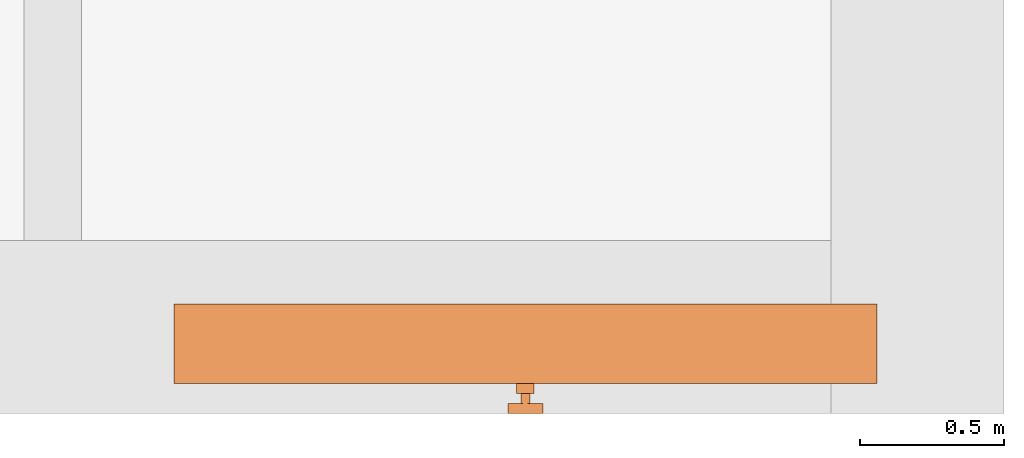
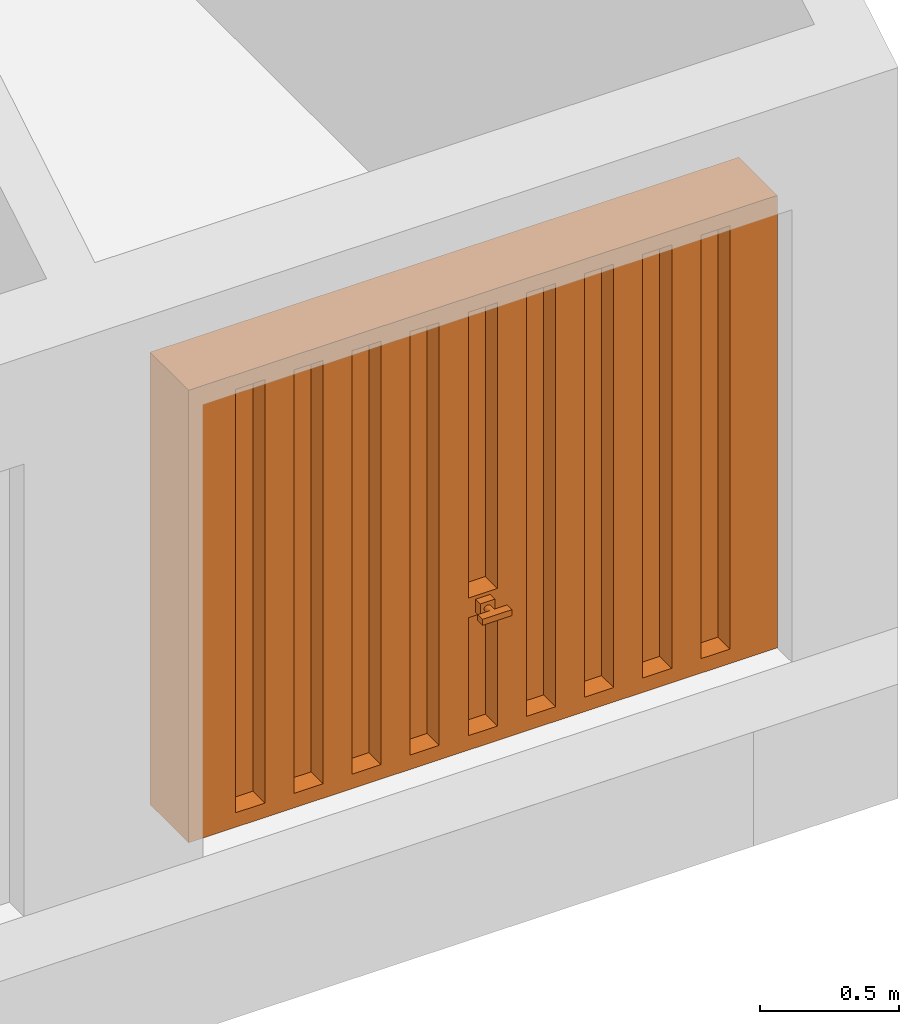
# One storey, part 6 of 6: 1 proxy.
"""IFC2X3 building model written with IfcOpenShell, lengths in millimetres."""

from ifc_helpers import new_model, entity, si_unit, converted_unit, direction, frame, origin, origin_with_axes, place, context, project, spatial, faceted_brep, element, save


model = new_model("IFC2X3")

# Units and contexts
model_context = context("Model", 3, precision=1e-05, world=origin(), true_north=direction((0.0, 1.0, 0.0)))
ifc_project = project(units=[si_unit("LENGTHUNIT", "METRE", prefix="MILLI"), si_unit("AREAUNIT", "SQUARE_METRE"), si_unit("VOLUMEUNIT", "CUBIC_METRE"), converted_unit("PLANEANGLEUNIT", "DEGREE", entity("IfcPlaneAngleMeasure", 0.01745), si_unit("PLANEANGLEUNIT", "RADIAN"), dimensions=[0, 0, 0, 0, 0, 0, 0]), si_unit("SOLIDANGLEUNIT", "STERADIAN"), si_unit("MASSUNIT", "GRAM"), si_unit("TIMEUNIT", "SECOND"), si_unit("THERMODYNAMICTEMPERATUREUNIT", "DEGREE_CELSIUS"), si_unit("LUMINOUSINTENSITYUNIT", "LUMEN")], contexts=[model_context])

# Site, building, storey
site_placement = place(None, origin_with_axes())
site = spatial("IfcSite", under=ifc_project, at=site_placement, Name="Default Site", CompositionType="ELEMENT")
building_placement = place(site_placement, origin_with_axes())
building = spatial("IfcBuilding", under=site, at=building_placement, Name="Default Building", CompositionType="ELEMENT")
storey_placement = place(building_placement, origin_with_axes())
storey = spatial("IfcBuildingStorey", under=building, at=storey_placement, Name="soubassement", CompositionType="ELEMENT", Elevation=0.0)

# Proxy
proxy_placement = place(storey_placement, frame((135.7350482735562, -20939.03786811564, 7.33405780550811e-06), z_axis=(0.0, 0.0, 1.0), x_axis=(1.0, 0.0, 0.0)))
element("IfcBuildingElementProxy", 1, at=proxy_placement, inside=storey, context=model_context, shape_type="Brep", body=[
    faceted_brep([(1158.544757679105, 259.0909082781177, 579.8760057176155), (1158.544757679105, 345.4545443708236, 579.8760057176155), (1278.917301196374, 345.4545443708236, 579.8760057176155), (1278.929027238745, 259.0909082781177, 579.8760057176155), (1158.544757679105, 345.4545443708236, 63.51268776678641), (1158.544757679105, 259.0909082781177, 63.51268776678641), (1278.940753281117, 259.0909082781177, 63.51268776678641), (1158.544757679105, 345.4545443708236, 665.936555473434), (1158.544757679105, 259.0909082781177, 665.936555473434), (1278.891506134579, 259.0909082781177, 665.936555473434), (1278.891506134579, 345.4545443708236, 665.936555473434), (1278.891506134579, 155.4545449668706, 579.8760029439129), (1278.891506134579, 69.09090887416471, 579.8760029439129), (1158.495510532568, 69.09090887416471, 579.8760029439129), (1158.495510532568, 155.4545449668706, 579.8760029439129), (1278.940753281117, 345.4545443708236, 63.51268776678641), (1278.940753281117, 259.0909082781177, 1917.687292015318), (1278.940753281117, 259.0909082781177, 665.936555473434), (1158.544757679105, 259.0909082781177, 1917.687292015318), (195.3767928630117, 345.4545443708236, 63.51268776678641), (195.3767928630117, 345.4545443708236, 1917.687292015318), (195.3767928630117, 259.0909082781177, 1917.687292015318), (195.3767928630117, 259.0909082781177, 63.51268776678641), (315.7727884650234, 345.4545443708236, 63.51268776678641), (315.7727884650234, 259.0909082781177, 63.51268776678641), (315.7727884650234, 345.4545443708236, 1917.687292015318), (315.7727884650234, 259.0909082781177, 579.8760057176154), (315.7727884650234, 259.0909082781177, 1917.687292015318), (436.1687840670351, 345.4545443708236, 63.51268776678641), (436.1687840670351, 345.4545443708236, 1917.687292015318), (436.1687840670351, 259.0909082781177, 1917.687292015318), (436.1687840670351, 259.0909082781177, 579.8760057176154), (436.1687840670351, 259.0909082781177, 63.51268776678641), (556.5647796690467, 345.4545443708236, 63.51268776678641), (556.5647796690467, 259.0909082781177, 63.51268776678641), (556.5647796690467, 345.4545443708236, 1917.687292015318), (556.5647796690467, 259.0909082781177, 579.8760057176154), (556.5647796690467, 259.0909082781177, 1917.687292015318), (676.9607752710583, 345.4545443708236, 63.51268776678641), (676.9607752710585, 345.4545443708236, 1917.687292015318), (676.9607752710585, 259.0909082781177, 1917.687292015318), (676.9607752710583, 259.0909082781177, 579.8760057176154), (676.9607752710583, 259.0909082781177, 63.51268776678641), (797.3567708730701, 345.4545443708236, 63.51268776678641), (797.3567708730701, 259.0909082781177, 63.51268776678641), (797.3567708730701, 345.4545443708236, 1917.687292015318), (797.3567708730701, 259.0909082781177, 579.8760057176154), (797.3567708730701, 259.0909082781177, 1917.687292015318), (917.7527664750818, 345.4545443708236, 63.51268776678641), (917.7527664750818, 345.4545443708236, 1917.687292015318), (917.7527664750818, 259.0909082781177, 1917.687292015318), (917.7527664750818, 259.0909082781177, 579.8760057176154), (917.7527664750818, 259.0909082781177, 63.51268776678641), (1038.148762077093, 345.4545443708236, 63.51268776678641), (1038.148762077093, 259.0909082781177, 63.51268776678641), (1038.148762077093, 345.4545443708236, 1917.687292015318), (1038.148762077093, 259.0909082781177, 579.8760057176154), (1038.148762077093, 259.0909082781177, 1917.687292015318), (1158.544757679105, 345.4545443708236, 1917.687292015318), (1278.940753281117, 345.4545443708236, 1917.687292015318), (1399.336748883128, 345.4545443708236, 63.51268776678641), (1399.336748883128, 345.4545443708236, 1917.687292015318), (1399.336748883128, 259.0909082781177, 1917.687292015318), (1399.336748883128, 259.0909082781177, 665.936555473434), (1399.336748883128, 259.0909082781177, 63.51268776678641), (1519.73274448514, 345.4545443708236, 63.51268776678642), (1519.73274448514, 259.0909082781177, 63.51268776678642), (1519.73274448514, 345.4545443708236, 1917.687292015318), (1519.73274448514, 259.0909082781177, 1917.687292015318), (1640.128740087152, 345.4545443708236, 63.51268776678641), (1640.128740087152, 345.4545443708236, 1917.687292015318), (1640.128740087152, 259.0909082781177, 1917.687292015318), (1640.128740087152, 259.0909082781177, 63.51268776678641), (1760.524735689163, 345.4545443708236, 63.51268776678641), (1760.524735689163, 259.0909082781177, 63.51268776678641), (1760.524735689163, 345.4545443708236, 1917.687292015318), (1760.524735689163, 259.0909082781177, 1917.687292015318), (1880.920731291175, 345.4545443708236, 63.51268776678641), (1880.920731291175, 345.4545443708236, 1917.687292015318), (1880.920731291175, 259.0909082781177, 1917.687292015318), (1880.920731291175, 259.0909082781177, 63.51268776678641), (2001.316726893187, 345.4545443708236, 63.51268776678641), (2001.316726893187, 259.0909082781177, 63.51268776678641), (2001.316726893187, 345.4545443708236, 1917.687292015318), (2001.316726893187, 259.0909082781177, 1917.687292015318), (2121.712722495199, 345.4545443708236, 63.51268776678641), (2121.712722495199, 345.4545443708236, 1917.687292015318), (2121.712722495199, 259.0909082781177, 1917.687292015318), (2121.712722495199, 259.0909082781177, 63.51268776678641), (2242.10871809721, 345.4545443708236, 63.51268776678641), (2242.10871809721, 259.0909082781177, 63.51268776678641), (2242.10871809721, 345.4545443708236, 1917.687292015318), (2242.10871809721, 259.0909082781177, 1917.687292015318), (2363.41911366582, 345.4545443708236, 63.51268776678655), (2363.41911366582, 345.4545443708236, 1917.687292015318), (74.98079726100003, 345.4545443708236, 1917.687292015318), (74.98079726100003, 345.4545443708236, 63.51268776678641), (1278.891506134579, 69.09090887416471, 594.9365996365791), (1278.891506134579, 69.09090887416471, 665.936555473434), (1158.495510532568, 69.09090887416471, 665.936555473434), (1249.173507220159, 69.09090887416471, 650.8759587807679), (1249.173507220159, 69.09090887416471, 594.9365996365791), (1188.213509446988, 69.09090887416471, 594.9365996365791), (1188.213509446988, 69.09090887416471, 650.8759587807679), (1211.186911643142, -34.54545443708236, 624.6100296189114), (1210.922107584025, -34.54545443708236, 622.9062792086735), (1211.186911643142, -34.54545443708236, 621.2025287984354), (1211.963277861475, -34.54545443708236, 619.6148861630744), (1213.198298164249, -34.54545443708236, 618.2515465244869), (1214.807807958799, -34.54545443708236, 617.205419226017), (1216.682121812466, -34.54545443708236, 616.5477961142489), (1218.693508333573, -34.54545443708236, 616.3234931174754), (1220.704894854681, -34.54545443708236, 616.5477961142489), (1222.579208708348, -34.54545443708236, 617.205419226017), (1224.188718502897, -34.54545443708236, 618.2515465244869), (1225.423738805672, -34.54545443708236, 619.6148861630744), (1226.200105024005, -34.54545443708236, 621.2025287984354), (1226.464909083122, -34.54545443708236, 622.9062792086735), (1226.200105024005, -34.54545443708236, 624.6100296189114), (1225.423738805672, -34.54545443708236, 626.1976722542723), (1224.188718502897, -34.54545443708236, 627.56101189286), (1222.579208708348, -34.54545443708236, 628.6071391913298), (1220.704894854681, -34.54545443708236, 629.2647623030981), (1218.693508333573, -34.54545443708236, 629.4890652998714), (1216.682121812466, -34.54545443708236, 629.2647623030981), (1214.807807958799, -34.54545443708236, 628.6071391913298), (1213.198298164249, -34.54545443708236, 627.56101189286), (1211.963277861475, -34.54545443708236, 626.1976722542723), (1214.749106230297, 0.0, 610.4370626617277), (1214.749106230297, 34.54545443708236, 610.4370626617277), (1218.693508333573, 34.54545443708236, 609.9971963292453), (1218.693508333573, 0.0, 609.9971963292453), (1211.073508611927, 0.0, 611.7266854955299), (1211.073508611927, 34.54545443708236, 611.7266854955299), (1207.917201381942, 0.0, 613.7781791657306), (1207.917201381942, 34.54545443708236, 613.7781791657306), (1205.495281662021, 0.0, 616.4517377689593), (1205.495281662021, 34.54545443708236, 616.4517377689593), (1203.972799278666, 0.0, 619.5651627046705), (1203.972799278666, 34.54545443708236, 619.5651627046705), (1203.453508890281, 0.0, 622.9062792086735), (1203.453508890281, 34.54545443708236, 622.9062792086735), (1203.972799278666, 0.0, 626.2473957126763), (1203.972799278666, 34.54545443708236, 626.2473957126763), (1205.495281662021, 0.0, 629.3608206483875), (1205.495281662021, 34.54545443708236, 629.3608206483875), (1207.917201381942, 0.0, 632.0343792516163), (1207.917201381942, 34.54545443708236, 632.0343792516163), (1218.693508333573, 0.0, 635.8153620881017), (1218.693508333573, 34.54545443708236, 635.8153620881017), (1214.749106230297, 34.54545443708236, 635.3754957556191), (1214.749106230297, 0.0, 635.3754957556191), (1211.073508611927, 34.54545443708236, 634.085872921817), (1211.073508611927, 0.0, 634.085872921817), (1207.917201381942, -34.54545443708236, 632.0343792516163), (1211.073508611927, -34.54545443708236, 634.085872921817), (1222.185954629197, 0.0, 635.4258963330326), (1222.637910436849, 0.0, 635.3754957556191), (1226.31350805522, 0.0, 634.0858729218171), (1229.469815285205, 0.0, 632.0343792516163), (1231.891735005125, 0.0, 629.3608206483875), (1233.414217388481, 0.0, 626.2473957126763), (1233.933507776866, 0.0, 622.9062792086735), (1233.414217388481, 0.0, 619.5651627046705), (1231.891735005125, 0.0, 616.4517377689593), (1229.469815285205, 0.0, 613.7781791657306), (1226.31350805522, 0.0, 611.7266854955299), (1222.637910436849, 0.0, 610.4370626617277), (1222.637910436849, 34.54545443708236, 635.3754957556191), (1226.31350805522, 34.54545443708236, 634.0858729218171), (1229.469815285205, 34.54545443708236, 632.0343792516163), (1231.891735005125, 34.54545443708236, 629.3608206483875), (1233.414217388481, 34.54545443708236, 626.2473957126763), (1233.933507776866, 34.54545443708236, 622.9062792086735), (1233.414217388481, 34.54545443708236, 619.5651627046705), (1231.891735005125, 34.54545443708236, 616.4517377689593), (1229.469815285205, 34.54545443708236, 613.7781791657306), (1226.31350805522, 34.54545443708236, 611.7266854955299), (1222.637910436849, 34.54545443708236, 610.4370626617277), (1222.637910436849, -34.54545443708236, 635.3754957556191), (1226.31350805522, -34.54545443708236, 634.0858729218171), (1229.469815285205, -34.54545443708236, 632.0343792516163), (1231.891735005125, -34.54545443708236, 629.3608206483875), (1233.414217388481, -34.54545443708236, 626.2473957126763), (1233.933507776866, -34.54545443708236, 622.9062792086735), (1233.414217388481, -34.54545443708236, 619.5651627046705), (1231.891735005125, -34.54545443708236, 616.4517377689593), (1229.469815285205, -34.54545443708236, 613.7781791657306), (1226.31350805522, -34.54545443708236, 611.7266854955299), (1222.637910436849, -34.54545443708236, 610.4370626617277), (1218.693508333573, -34.54545443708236, 609.9971963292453), (1218.693508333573, -34.54545443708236, 635.8153620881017), (1222.185954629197, -34.54545443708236, 635.4258963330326), (1279.653506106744, -34.54545443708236, 609.9971963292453), (1279.653506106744, -34.54545443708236, 635.8153620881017), (1214.749106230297, -34.54545443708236, 635.3754957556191), (1205.495281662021, -34.54545443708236, 629.3608206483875), (1203.972799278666, -34.54545443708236, 626.2473957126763), (1203.453508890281, -34.54545443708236, 622.9062792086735), (1203.972799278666, -34.54545443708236, 619.5651627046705), (1205.495281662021, -34.54545443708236, 616.4517377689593), (1207.917201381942, -34.54545443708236, 613.7781791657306), (1211.073508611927, -34.54545443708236, 611.7266854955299), (1214.749106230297, -34.54545443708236, 610.4370626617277), (1228.365546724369, 0.0, 635.4677763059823), (1279.653506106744, 0.0, 635.8153620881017), (1157.733510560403, 0.0, 635.8153620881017), (1157.733510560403, -34.54545443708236, 635.8153620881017), (1279.653506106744, 0.0, 609.9971963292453), (1157.733510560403, -34.54545443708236, 609.9971963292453), (1157.733510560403, 0.0, 609.9971963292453), (1188.213509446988, 34.54545443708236, 594.9365996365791), (1188.213509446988, 34.54545443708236, 650.8759587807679), (1249.173507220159, 34.54545443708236, 650.8759587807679), (1249.173507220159, 34.54545443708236, 594.9365996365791), (1158.495510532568, 155.4545449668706, 665.936555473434), (1158.495510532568, 69.09090887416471, 1917.687292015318), (1158.495510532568, 155.4545449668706, 881.0879367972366), (1158.495510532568, 155.4545449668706, 1912.351537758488), (1158.495510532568, 155.4545449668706, 1917.687292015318), (1278.891506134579, 155.4545449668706, 665.936555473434), (1278.891506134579, 69.09090887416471, 1917.687292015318), (1278.891506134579, 155.4545449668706, 1917.687292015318), (1038.099514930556, 155.4545449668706, 881.0879367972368), (1038.099514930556, 155.4545449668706, 665.936555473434), (1056.639961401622, 155.4545449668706, 665.936555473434), (1056.639961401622, 155.4545449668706, 881.0879367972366), (1137.919958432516, 155.4545449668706, 881.0879367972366), (1137.919958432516, 155.4545449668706, 665.936555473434), (1137.919958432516, 155.4545449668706, 579.8760029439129), (1056.639961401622, 155.4545449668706, 579.8760029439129), (1038.099514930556, 155.4545449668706, 579.8760029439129), (1038.099514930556, 155.4545449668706, 1912.351537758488), (1056.639961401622, 155.4545449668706, 1912.351537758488), (1137.919958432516, 155.4545449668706, 1912.351537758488), (2121.663475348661, 69.09090887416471, 1917.687292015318), (2121.663475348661, 69.09090887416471, 63.51268776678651), (2121.663475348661, 155.4545449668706, 63.51268776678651), (2121.663475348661, 155.4545449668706, 1917.687292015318), (2242.059470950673, 69.09090887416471, 1917.687292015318), (2242.059470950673, 155.4545449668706, 1917.687292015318), (2242.059470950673, 69.09090887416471, 63.51268776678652), (2242.059470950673, 155.4545449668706, 63.51268776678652), (1880.871484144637, 69.09090887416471, 1917.687292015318), (1880.871484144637, 69.09090887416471, 63.5126877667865), (1880.871484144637, 155.4545449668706, 63.5126877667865), (1880.871484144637, 155.4545449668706, 1917.687292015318), (2001.267479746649, 69.09090887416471, 1917.687292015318), (2001.267479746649, 155.4545449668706, 1917.687292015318), (2001.267479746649, 69.09090887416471, 63.5126877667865), (2001.267479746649, 155.4545449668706, 63.5126877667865), (1640.079492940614, 69.09090887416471, 1917.687292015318), (1640.079492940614, 69.09090887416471, 63.51268776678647), (1640.079492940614, 155.4545449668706, 63.51268776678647), (1640.079492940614, 155.4545449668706, 1912.351537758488), (1640.079492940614, 155.4545449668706, 1917.687292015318), (1760.475488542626, 69.09090887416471, 1917.687292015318), (1760.475488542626, 155.4545449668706, 1917.687292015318), (1760.475488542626, 69.09090887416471, 63.51268776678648), (1760.475488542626, 155.4545449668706, 63.51268776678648), (1706.879937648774, 155.4545449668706, 63.51268776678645), (1399.287501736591, 69.09090887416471, 1917.687292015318), (1399.287501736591, 69.09090887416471, 63.51268776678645), (1399.287501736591, 155.4545449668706, 63.51268776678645), (1399.287501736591, 155.4545449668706, 1917.687292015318), (1519.683497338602, 69.09090887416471, 1917.687292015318), (1519.683497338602, 155.4545449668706, 1917.687292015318), (1519.683497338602, 69.09090887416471, 63.51268776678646), (1519.683497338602, 155.4545449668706, 1912.351537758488), (1519.683497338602, 155.4545449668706, 63.51268776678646), (1463.039946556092, 155.4545449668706, 63.51268776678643), (1158.495510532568, 155.4545449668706, 63.51268776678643), (1158.495510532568, 69.09090887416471, 63.51268776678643), (1278.891506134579, 69.09090887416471, 63.51268776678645), (1278.891506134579, 155.4545449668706, 63.51268776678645), (1219.19995546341, 155.4545449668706, 63.51268776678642), (1056.639961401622, 155.4545449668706, 0.0), (1038.099514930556, 155.4545449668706, 63.51268776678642), (975.3599643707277, 155.4545449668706, 63.51268776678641), (975.3599643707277, 155.4545449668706, 0.0), (917.7527664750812, 69.09090887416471, 1917.687292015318), (917.7527664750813, 69.09090887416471, 63.51268776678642), (917.7527664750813, 155.4545449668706, 63.51268776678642), (917.7527664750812, 155.4545449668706, 1917.687292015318), (1038.099514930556, 69.09090887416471, 1914.770687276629), (1038.099514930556, 155.4545449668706, 1914.770687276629), (1038.099514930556, 69.09090887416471, 63.51268776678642), (731.5199732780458, 155.4545449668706, 0.0), (731.5199732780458, 155.4545449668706, 63.51268776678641), (676.960775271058, 155.4545449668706, 63.51268776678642), (676.9607752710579, 155.4545449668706, 1912.351537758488), (650.2399762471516, 155.4545449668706, 1912.351537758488), (650.2399762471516, 155.4545449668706, 0.0), (676.9607752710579, 69.09090887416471, 1917.687292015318), (676.960775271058, 69.09090887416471, 63.51268776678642), (676.9607752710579, 155.4545449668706, 1917.687292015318), (797.3567708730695, 69.09090887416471, 1917.687292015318), (797.3567708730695, 155.4545449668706, 1917.687292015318), (797.3567708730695, 69.09090887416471, 63.51268776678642), (797.3567708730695, 155.4545449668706, 63.51268776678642), (568.9599792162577, 155.4545449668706, 1912.351537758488), (556.5647796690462, 155.4545449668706, 1912.351537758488), (556.5647796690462, 155.4545449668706, 63.51268776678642), (487.6799821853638, 155.4545449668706, 63.51268776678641), (487.6799821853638, 155.4545449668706, 0.0), (568.9599792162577, 155.4545449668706, 0.0), (436.1687840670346, 69.09090887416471, 1917.687292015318), (436.1687840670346, 69.09090887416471, 63.51268776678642), (436.1687840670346, 155.4545449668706, 63.51268776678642), (436.1687840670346, 155.4545449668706, 1917.687292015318), (556.5647796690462, 69.09090887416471, 1917.687292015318), (556.5647796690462, 155.4545449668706, 1917.687292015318), (556.5647796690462, 69.09090887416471, 63.51268776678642), (243.8399910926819, 155.4545449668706, 0.0), (243.8399910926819, 155.4545449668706, 63.51268776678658), (195.3767928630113, 155.4545449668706, 63.51268776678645), (195.3767928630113, 155.4545449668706, 1912.351537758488), (162.5599940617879, 155.4545449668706, 1912.351537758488), (162.5599940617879, 155.4545449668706, 0.0), (195.3767928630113, 69.09090887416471, 1917.687292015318), (195.3767928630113, 69.09090887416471, 63.51268776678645), (195.3767928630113, 155.4545449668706, 1917.687292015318), (315.772788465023, 69.09090887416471, 1917.687292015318), (315.772788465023, 155.4545449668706, 1917.687292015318), (315.772788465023, 69.09090887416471, 63.51268776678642), (315.772788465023, 155.4545449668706, 63.51268776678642), (2363.41911366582, 69.09090887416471, 1917.687292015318), (2363.41911366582, 69.09090887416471, 63.51268776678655), (74.98079726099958, 69.09090887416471, 63.51268776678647), (74.9807972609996, 69.09090887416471, 1917.687292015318), (2438.399910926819, 69.09090887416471, 1981.199979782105), (0.0, 69.09090887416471, 1981.199979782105), (0.0, 69.09090887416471, 0.0), (162.5599940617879, 69.09090887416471, 0.0), (243.8399910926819, 69.09090887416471, 0.0), (325.1199881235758, 69.09090887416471, 0.0), (406.3999851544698, 69.09090887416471, 0.0), (487.6799821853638, 69.09090887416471, 0.0), (568.9599792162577, 69.09090887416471, 0.0), (650.2399762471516, 69.09090887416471, 0.0), (731.5199732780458, 69.09090887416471, 0.0), (812.7999703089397, 69.09090887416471, 0.0), (894.0799673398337, 69.09090887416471, 0.0), (975.3599643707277, 69.09090887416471, 0.0), (1056.639961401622, 69.09090887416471, 0.0), (1137.919958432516, 69.09090887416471, 0.0), (1219.19995546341, 69.09090887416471, 0.0), (1300.479952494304, 69.09090887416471, 0.0), (1381.759949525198, 69.09090887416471, 0.0), (1463.039946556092, 69.09090887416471, 0.0), (1544.319943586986, 69.09090887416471, 0.0), (1625.59994061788, 69.09090887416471, 0.0), (1706.879937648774, 69.09090887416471, 0.0), (2438.399910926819, 69.09090887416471, 0.0), (1706.879937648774, 155.4545449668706, 0.0), (1625.59994061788, 155.4545449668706, 1912.351537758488), (1625.59994061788, 155.4545449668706, 0.0), (1300.479952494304, 155.4545449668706, 0.0), (1381.759949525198, 155.4545449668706, 0.0), (1381.759949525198, 155.4545449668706, 1912.351537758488), (1300.479952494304, 155.4545449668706, 1912.351537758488), (0.0, 345.4545443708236, 0.0), (2438.399910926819, 345.4545443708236, 0.0), (1544.319943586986, 155.4545449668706, 0.0), (1463.039946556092, 155.4545449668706, 0.0), (1219.19995546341, 155.4545449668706, 0.0), (1137.919958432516, 155.4545449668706, 0.0), (894.0799673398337, 155.4545449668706, 0.0), (812.7999703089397, 155.4545449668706, 0.0), (406.3999851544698, 155.4545449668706, 0.0), (325.1199881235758, 155.4545449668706, 0.0), (406.3999851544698, 155.4545449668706, 1912.351537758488), (325.1199881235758, 155.4545449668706, 1912.351537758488), (325.1199881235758, 155.4545449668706, 2.220851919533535), (1544.319943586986, 155.4545449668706, 1912.351537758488), (894.0799673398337, 155.4545449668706, 1912.351537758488), (812.7999703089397, 155.4545449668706, 1912.351537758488), (325.1199881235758, 69.09090887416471, 2.220851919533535), (0.0, 345.4545443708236, 1981.199979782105), (2438.399910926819, 345.4545443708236, 1981.199979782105)], [[[0, 1, 2, 3]], [[4, 1, 0, 5]], [[5, 0, 3, 6]], [[7, 8, 9, 10]], [[8, 0, 1, 7]], [[11, 12, 13, 14]], [[6, 3, 2, 15]], [[10, 2, 1, 7]], [[16, 17, 9, 8, 18]], [[19, 20, 21, 22]], [[23, 19, 22, 24]], [[25, 23, 24, 26, 27]], [[20, 25, 27, 21]], [[27, 26, 24, 22, 21]], [[28, 29, 30, 31, 32]], [[33, 28, 32, 34]], [[35, 33, 34, 36, 37]], [[29, 35, 37, 30]], [[37, 36, 34, 32, 31, 30]], [[38, 39, 40, 41, 42]], [[43, 38, 42, 44]], [[45, 43, 44, 46, 47]], [[39, 45, 47, 40]], [[47, 46, 44, 42, 41, 40]], [[48, 49, 50, 51, 52]], [[53, 48, 52, 54]], [[55, 53, 54, 56, 57]], [[49, 55, 57, 50]], [[57, 56, 54, 52, 51, 50]], [[18, 8, 7, 58]], [[15, 4, 5, 6]], [[59, 2, 3, 17, 16]], [[58, 59, 16, 18]], [[17, 3, 0, 8, 9]], [[60, 61, 62, 63, 64]], [[65, 60, 64, 66]], [[67, 65, 66, 68]], [[61, 67, 68, 62]], [[62, 68, 66, 64, 63]], [[69, 70, 71, 72]], [[73, 69, 72, 74]], [[75, 73, 74, 76]], [[70, 75, 76, 71]], [[71, 76, 74, 72]], [[77, 78, 79, 80]], [[81, 77, 80, 82]], [[83, 81, 82, 84]], [[78, 83, 84, 79]], [[79, 84, 82, 80]], [[85, 86, 87, 88]], [[83, 86, 85, 81]], [[89, 85, 88, 90]], [[91, 89, 90, 92]], [[86, 91, 92, 87]], [[87, 92, 90, 88]], [[93, 89, 91, 94]], [[75, 78, 77, 73]], [[67, 70, 69, 65]], [[59, 61, 60, 15, 2]], [[55, 58, 7, 1, 4, 53]], [[45, 49, 48, 43]], [[35, 39, 38, 33]], [[25, 29, 28, 23]], [[95, 20, 19, 96]], [[12, 97, 98, 99, 13], [100, 101, 102, 103]], [[14, 11, 12, 13]], [[104, 105, 106, 107, 108, 109, 110, 111, 112, 113, 114, 115, 116, 117, 118, 119, 120, 121, 122, 123, 124, 125, 126, 127]], [[128, 129, 130, 131]], [[132, 133, 129, 128]], [[134, 135, 133, 132]], [[136, 137, 135, 134]], [[138, 139, 137, 136]], [[140, 141, 139, 138]], [[142, 143, 141, 140]], [[144, 145, 143, 142]], [[146, 147, 145, 144]], [[148, 149, 150, 151]], [[151, 150, 152, 153]], [[154, 155, 153, 146]], [[153, 152, 147, 146]], [[151, 148, 156, 157, 158, 159, 160, 161, 162, 163, 164, 165, 166, 167, 131, 128, 132, 134, 136, 138, 140, 142, 144, 146, 153]], [[168, 149, 148, 156, 157]], [[158, 169, 168, 157]], [[159, 170, 169, 158]], [[160, 171, 170, 159]], [[161, 172, 171, 160]], [[162, 173, 172, 161]], [[163, 174, 173, 162]], [[164, 175, 174, 163]], [[165, 176, 175, 164]], [[166, 177, 176, 165]], [[167, 178, 177, 166]], [[131, 130, 178, 167]], [[168, 149, 150, 152, 147, 145, 143, 141, 139, 137, 135, 133, 129, 130, 178, 177, 176, 175, 174, 173, 172, 171, 170, 169]], [[179, 180, 158, 157]], [[180, 181, 159, 158]], [[181, 182, 160, 159]], [[182, 183, 161, 160]], [[183, 184, 162, 161]], [[184, 185, 163, 162]], [[185, 186, 164, 163]], [[186, 187, 165, 164]], [[187, 188, 166, 165]], [[188, 189, 167, 166]], [[189, 190, 131, 167]], [[191, 192, 179, 180, 181, 182, 183, 184, 185, 186, 187, 188, 189, 190, 193, 194]], [[155, 195, 151, 153]], [[196, 154, 146, 144]], [[197, 196, 144, 142]], [[198, 197, 142, 140]], [[199, 198, 140, 138]], [[200, 199, 138, 136]], [[201, 200, 136, 134]], [[202, 201, 134, 132]], [[203, 202, 132, 128]], [[190, 203, 128, 131]], [[185, 184, 183, 182, 181, 180, 179, 192, 191, 195, 155, 154, 196, 197, 198, 199, 200, 201, 202, 203, 190, 189, 188, 187, 186], [118, 117, 116, 115, 114, 113, 112, 111, 110, 109, 108, 107, 106, 105, 104, 127, 126, 125, 124, 123, 122, 121, 120, 119]], [[204, 156, 148]], [[205, 148, 204]], [[148, 206, 207, 191, 194, 205]], [[190, 193, 208, 131]], [[193, 194, 205, 208]], [[208, 205, 204, 156, 157, 158, 159, 160, 161, 162, 163, 164, 165, 166, 167, 131]], [[209, 207, 206, 210]], [[190, 209, 210, 131]], [[131, 210, 206, 148, 151, 153, 146, 144, 142, 140, 138, 136, 134, 132, 128]], [[209, 190, 203, 202, 201, 200, 199, 198, 197, 196, 154, 155, 195, 191, 207]], [[103, 102, 211, 212]], [[100, 103, 212, 213]], [[101, 100, 213, 214]], [[102, 101, 214, 211]], [[211, 214, 213, 212], [178, 130, 129, 133, 135, 137, 139, 141, 143, 145, 147, 152, 150, 149, 168, 169, 170, 171, 172, 173, 174, 175, 176, 177]], [[99, 13, 14, 215]], [[216, 99, 215, 217, 218, 219]], [[220, 98, 221, 222]], [[220, 215, 99, 98]], [[217, 215, 220, 222, 219, 218]], [[223, 224, 225, 226]], [[227, 228, 215, 217]], [[226, 225, 228, 227]], [[229, 228, 225, 230]], [[14, 215, 228, 229]], [[230, 225, 224, 231]], [[232, 223, 226, 233]], [[234, 227, 217, 218]], [[235, 236, 237, 238]], [[239, 235, 238, 240]], [[241, 239, 240, 242]], [[236, 241, 242, 237]], [[237, 242, 240, 238]], [[243, 244, 245, 246]], [[247, 243, 246, 248]], [[249, 247, 248, 250]], [[244, 249, 250, 245]], [[245, 250, 248, 246]], [[251, 252, 253, 254, 255]], [[256, 251, 255, 257]], [[258, 256, 257, 259]], [[252, 258, 259, 260, 253]], [[253, 260, 259, 257, 255, 254]], [[261, 262, 263, 264]], [[265, 261, 264, 266]], [[267, 265, 266, 268, 269]], [[262, 267, 269, 270, 263]], [[269, 268, 266, 264, 263, 270]], [[271, 14, 13, 272]], [[221, 216, 219, 222]], [[273, 12, 11, 274]], [[272, 273, 274, 275, 271]], [[274, 11, 14, 271, 275]], [[258, 244, 243, 256]], [[276, 230, 231, 277, 278, 279]], [[280, 281, 282, 283]], [[284, 280, 283, 285]], [[286, 284, 285, 232, 223, 224, 231, 277]], [[281, 286, 277, 278, 282]], [[223, 232, 285, 283, 282, 278, 277, 231, 224]], [[287, 288, 289, 290, 291, 292]], [[293, 294, 289, 290, 295]], [[296, 293, 295, 297]], [[298, 296, 297, 299]], [[294, 298, 299, 288, 289]], [[289, 288, 299, 297, 295, 290]], [[300, 301, 302, 303, 304, 305]], [[306, 307, 308, 309]], [[310, 306, 309, 311]], [[312, 310, 311, 301, 302]], [[307, 312, 302, 303, 308]], [[302, 301, 311, 309, 308, 303]], [[313, 314, 315, 316, 317, 318]], [[319, 320, 315, 316, 321]], [[322, 319, 321, 323]], [[324, 322, 323, 325]], [[320, 324, 325, 314, 315]], [[315, 314, 325, 323, 321, 316]], [[326, 239, 241, 327]], [[249, 236, 235, 247]], [[267, 252, 251, 265]], [[273, 262, 261, 221, 98, 97, 12]], [[298, 281, 280, 296]], [[312, 294, 293, 310]], [[324, 307, 306, 322]], [[328, 320, 319, 329]], [[286, 272, 13, 99, 216, 280, 284]], [[330, 331, 332, 333, 334, 335, 336, 337, 338, 339, 340, 341, 342, 343, 344, 345, 346, 347, 348, 349, 350, 351, 352, 353], [328, 329, 319, 322, 306, 310, 293, 296, 280, 216, 221, 261, 265, 251, 256, 243, 247, 235, 239, 326, 327, 241, 236, 249, 244, 258, 252, 267, 262, 273, 272, 286, 281, 298, 294, 312, 307, 324, 320]], [[354, 260, 253, 254, 355, 356]], [[357, 358, 359, 360]], [[333, 332, 361, 362, 353, 352, 354, 356, 351, 350, 363, 364, 349, 348, 358, 357, 347, 346, 365, 366, 345, 344, 276, 279, 343, 342, 367, 368, 341, 340, 287, 292, 339, 338, 305, 304, 337, 336, 369, 370, 335, 334, 313, 318]], [[371, 372, 373, 370, 369]], [[346, 345, 366, 365]], [[344, 343, 279, 276]], [[342, 341, 368, 367]], [[340, 339, 292, 287]], [[338, 337, 304, 305]], [[336, 335, 370, 369]], [[334, 333, 318, 313]], [[348, 347, 357, 358]], [[350, 349, 364, 363]], [[352, 351, 356, 354]], [[374, 268, 269, 270, 364, 363]], [[271, 14, 229, 366, 365, 275]], [[368, 367, 375, 376]], [[377, 335, 370, 373]], [[378, 361, 332, 331]], [[378, 331, 330, 379]], [[330, 353, 362, 379]], [[379, 362, 361, 378], [89, 93, 94, 91, 86, 83, 78, 75, 70, 67, 61, 59, 58, 55, 49, 45, 39, 35, 29, 25, 20, 95, 96, 19, 23, 28, 33, 38, 43, 48, 53, 4, 15, 60, 65, 69, 73, 77, 81, 85]]]),
])

save(model, "model.ifc")
